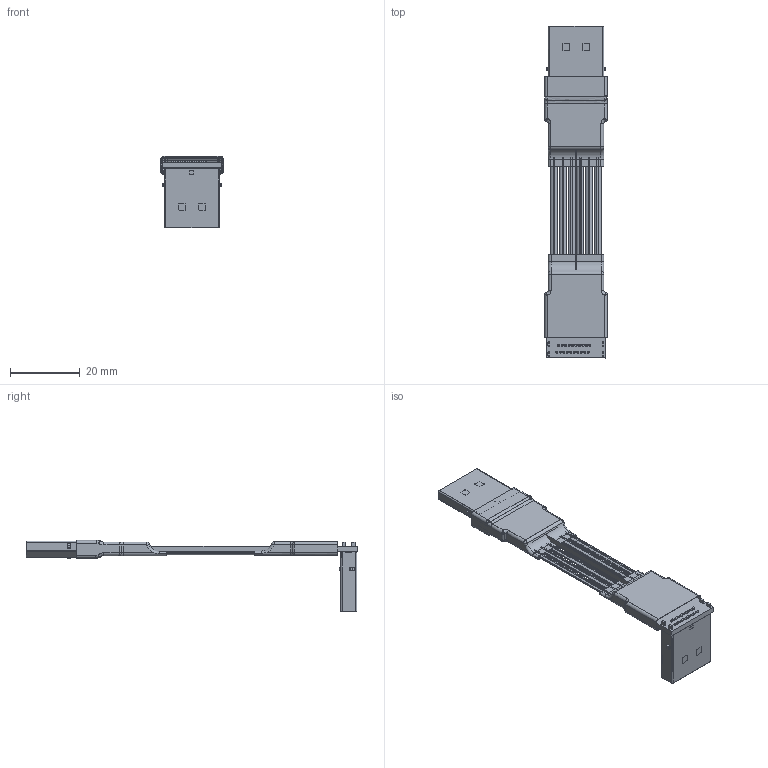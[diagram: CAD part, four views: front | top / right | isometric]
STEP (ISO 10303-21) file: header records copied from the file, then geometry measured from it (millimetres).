
FILE_DESCRIPTION(('Open CASCADE Model'),'2;1');
FILE_NAME('Open CASCADE Shape Model','2025-12-30T11:18:05',('Author'),( 'Open CASCADE'),'Open CASCADE STEP processor 7.5','Open CASCADE 7.5' ,'Unknown');
FILE_SCHEMA(('AUTOMOTIVE_DESIGN { 1 0 10303 214 1 1 1 1 }'));
Length unit declared in the file: millimetre
Products named in the file (72): PCB; Board; Open CASCADE STEP translator 7.5 1.1.1; CN2; DP-male 20220804; R1; 0603_RES; Capsule; Encapsulation; TopCover; Open CASCADE STEP translator 7.5 1.5; DP-male 20220804_4010792012; Free-Models; DPbʽ¹«ͷɈ̵¹ڠ20251230; тƷП²ĺۉ«±¡П ֱП 20241226; DP¹«ͷɈ̵¹ڠ20251104
Assembly tree (75 placements, depth 4):
  PCB
    Board
      Open CASCADE STEP translator 7.5 1.1.1
    CN2
      DP-male 20220804  x2
      DP-male 20220804
    R1
      0603_RES
        Capsule
        Encapsulation  x2
        TopCover
    R1
      0603_RES
        Capsule
        Encapsulation  x2
        TopCover
    Open CASCADE STEP translator 7.5 1.5
      DP-male 20220804_4010792012  x2
      DP-male 20220804_4010792012
    Free-Models
      DPbʽ¹«ͷɈ̵¹ڠ20251230
      тƷП²ĺۉ«±¡П ֱП 20241226
      тƷП²ĺۉ«±¡П ֱП 20241226
      тƷП²ĺۉ«±¡П ֱП 20241226
      тƷП²ĺۉ«±¡П ֱП 20241226
      тƷП²ĺۉ«±¡П ֱП 20241226
      тƷП²ĺۉ«±¡П ֱП 20241226
      тƷП²ĺۉ«±¡П ֱП 20241226
      тƷП²ĺۉ«±¡П ֱП 20241226
      тƷП²ĺۉ«±¡П ֱП 20241226
      тƷП²ĺۉ«±¡П ֱП 20241226
      тƷП²ĺۉ«±¡П ֱП 20241226
      тƷП²ĺۉ«±¡П ֱП 20241226
      тƷП²ĺۉ«±¡П ֱП 20241226
      тƷП²ĺۉ«±¡П ֱП 20241226
      тƷП²ĺۉ«±¡П ֱП 20241226
      тƷП²ĺۉ«±¡П ֱП 20241226
      тƷП²ĺۉ«±¡П ֱП 20241226
      тƷП²ĺۉ«±¡П ֱП 20241226
      тƷП²ĺۉ«±¡П ֱП 20241226
      тƷП²ĺۉ«±¡П ֱП 20241226
      тƷП²ĺۉ«±¡П ֱП 20241226
      тƷП²ĺۉ«±¡П ֱП 20241226
      тƷП²ĺۉ«±¡П ֱП 20241226
      тƷП²ĺۉ«±¡П ֱП 20241226
      тƷП²ĺۉ«±¡П ֱП 20241226
      тƷП²ĺۉ«±¡П ֱП 20241226
      тƷП²ĺۉ«±¡П ֱП 20241226
      тƷП²ĺۉ«±¡П ֱП 20241226
      тƷП²ĺۉ«±¡П ֱП 20241226
      тƷП²ĺۉ«±¡П ֱП 20241226
      тƷП²ĺۉ«±¡П ֱП 20241226
      тƷП²ĺۉ«±¡П ֱП 20241226
      тƷП²ĺۉ«±¡П ֱП 20241226
      тƷП²ĺۉ«±¡П ֱП 20241226
      тƷП²ĺۉ«±¡П ֱП 20241226
      тƷП²ĺۉ«±¡П ֱП 20241226
      тƷП²ĺۉ«±¡П ֱП 20241226
      тƷП²ĺۉ«±¡П ֱП 20241226
      тƷП²ĺۉ«±¡П ֱП 20241226
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Bounding box: 18.02 x 95.46 x 20.49 mm (x, y, z)
Volume: 6599.1 mm3; surface area: 37973.9 mm2
Topology: 70 solids, 71 shells, 4400 faces, 11508 edges, 7553 vertices
Faces by surface type: plane 2988, cylinder 1136, bspline 238, torus 24, revolution 8, offset 6
Full cylindrical faces by diameter (mm): 0.254 x84, 0.55 x20, 0.8 x2
Entity records: 179873 total; most frequent: CARTESIAN_POINT 46314, ORIENTED_EDGE 16550, DIRECTION 16060, EDGE_CURVE 8275, PRESENTATION_STYLE_ASSIGNMENT 5913, SURFACE_STYLE_USAGE 5913, SURFACE_SIDE_STYLE 5913, SURFACE_STYLE_FILL_AREA 5913
